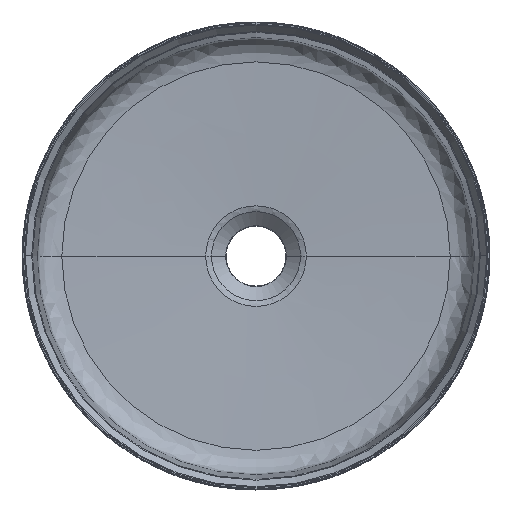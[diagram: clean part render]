
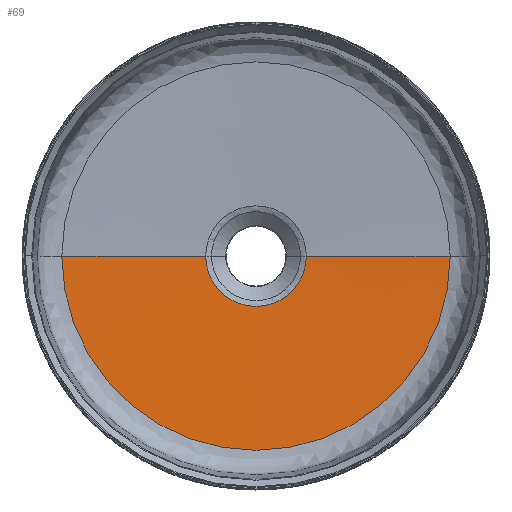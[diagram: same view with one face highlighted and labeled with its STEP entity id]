
A CAD part, top view. The second image highlights one B-rep face of the part: STEP entity #69.
In plain terms, the highlighted free-form (B-spline) face has degree [1, 2] with [2, 5] control points.
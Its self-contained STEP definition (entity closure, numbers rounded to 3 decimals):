
#69=ADVANCED_FACE('',(#189),#1711,.T.);
#189=FACE_OUTER_BOUND('',#309,.T.);
#309=EDGE_LOOP('',(#594,#595,#596,#597));
#594=ORIENTED_EDGE('',*,*,#1083,.T.);
#595=ORIENTED_EDGE('',*,*,#966,.T.);
#596=ORIENTED_EDGE('',*,*,#1087,.F.);
#597=ORIENTED_EDGE('',*,*,#1086,.F.);
#966=EDGE_CURVE('',#1567,#1569,#1123,.T.);
#1083=EDGE_CURVE('',#1627,#1567,#1327,.T.);
#1086=EDGE_CURVE('',#1627,#1629,#1153,.T.);
#1087=EDGE_CURVE('',#1629,#1569,#1329,.T.);
#1123=B_SPLINE_CURVE_WITH_KNOTS('',1,(#4341,#4342),.UNSPECIFIED.,.F.,.F.,
(2,2),(424.435,628.321),.UNSPECIFIED.);
#1153=B_SPLINE_CURVE_WITH_KNOTS('',1,(#4671,#4672),.UNSPECIFIED.,.F.,.F.,
(2,2),(424.435,628.321),.UNSPECIFIED.);
#1327=TRIMMED_CURVE($,#1505,(#4664),(#4665),.T.,.CARTESIAN.);
#1329=TRIMMED_CURVE($,#1507,(#4674),(#4675),.T.,.CARTESIAN.);
#1505=CIRCLE('',#2055,38.708);
#1507=CIRCLE('',#2057,149.499);
#1567=VERTEX_POINT('',#3967);
#1569=VERTEX_POINT('',#3969);
#1627=VERTEX_POINT('',#4027);
#1629=VERTEX_POINT('',#4029);
#1711=(
BOUNDED_SURFACE()
B_SPLINE_SURFACE(1,2,((#3148,#3149,#3150,#3151,#3152),(#3153,#3154,#3155,
#3156,#3157)),.UNSPECIFIED.,.F.,.F.,.F.)
B_SPLINE_SURFACE_WITH_KNOTS((2,2),(3,2,3),(424.435,628.321),
(0.,234.832,469.664),.UNSPECIFIED.)
GEOMETRIC_REPRESENTATION_ITEM()
RATIONAL_B_SPLINE_SURFACE(((1.,0.707,1.,0.707,1.),
(1.,0.707,1.,0.707,1.)))
REPRESENTATION_ITEM('')
SURFACE()
);
#2055=AXIS2_PLACEMENT_3D($,#4663,#2451,#2452);
#2057=AXIS2_PLACEMENT_3D($,#4673,#2455,#2456);
#2451=DIRECTION('',(0.,0.,-1.));
#2452=DIRECTION('',(1.,0.,0.));
#2455=DIRECTION('',(0.,0.,-1.));
#2456=DIRECTION('',(1.,0.,0.));
#3148=CARTESIAN_POINT('',(-22670.356,36329.64,-1580.371));
#3149=CARTESIAN_POINT('',(-22670.356,36290.932,-1580.371));
#3150=CARTESIAN_POINT('',(-22631.649,36290.932,-1580.371));
#3151=CARTESIAN_POINT('',(-22592.941,36290.932,-1580.371));
#3152=CARTESIAN_POINT('',(-22592.941,36329.64,-1580.371));
#3153=CARTESIAN_POINT('',(-22781.147,36329.64,-1575.079));
#3154=CARTESIAN_POINT('',(-22781.147,36180.141,-1575.079));
#3155=CARTESIAN_POINT('',(-22631.649,36180.141,-1575.079));
#3156=CARTESIAN_POINT('',(-22482.15,36180.141,-1575.079));
#3157=CARTESIAN_POINT('',(-22482.15,36329.64,-1575.079));
#3967=CARTESIAN_POINT('',(-22670.356,36329.64,-1580.371));
#3969=CARTESIAN_POINT('',(-22781.147,36329.64,-1575.079));
#4027=CARTESIAN_POINT('',(-22592.941,36329.64,-1580.371));
#4029=CARTESIAN_POINT('',(-22482.15,36329.64,-1575.079));
#4341=CARTESIAN_POINT('',(-22670.356,36329.64,-1580.371));
#4342=CARTESIAN_POINT('',(-22781.147,36329.64,-1575.079));
#4663=CARTESIAN_POINT('',(-22631.649,36329.64,-1580.371));
#4664=CARTESIAN_POINT('',(-22592.941,36329.64,-1580.371));
#4665=CARTESIAN_POINT('',(-22670.356,36329.64,-1580.371));
#4671=CARTESIAN_POINT('',(-22592.941,36329.64,-1580.371));
#4672=CARTESIAN_POINT('',(-22482.15,36329.64,-1575.079));
#4673=CARTESIAN_POINT('',(-22631.649,36329.64,-1575.079));
#4674=CARTESIAN_POINT('',(-22482.15,36329.64,-1575.079));
#4675=CARTESIAN_POINT('',(-22781.147,36329.64,-1575.079));
